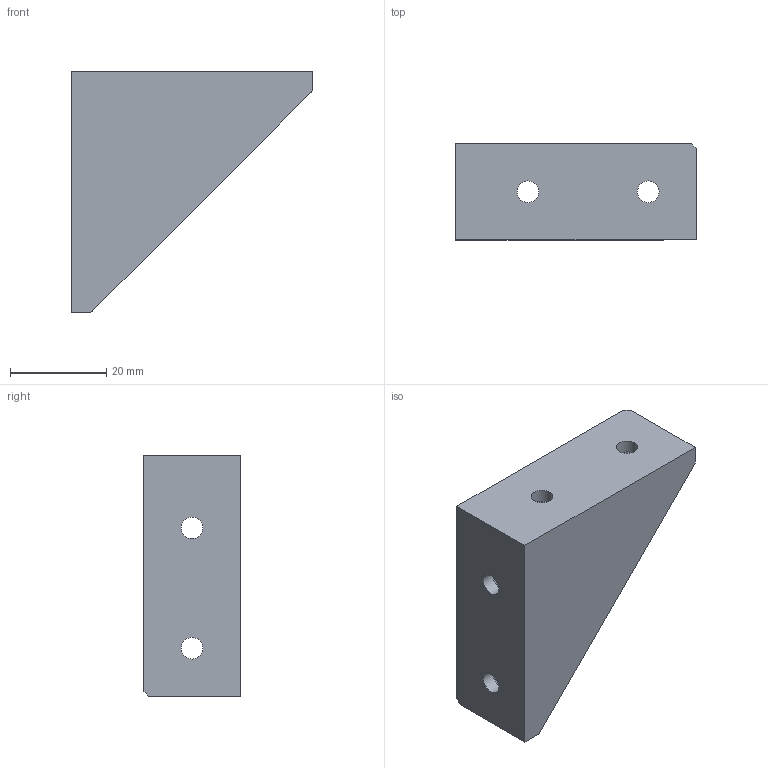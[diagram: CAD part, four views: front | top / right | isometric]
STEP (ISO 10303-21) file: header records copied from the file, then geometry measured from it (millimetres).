
FILE_DESCRIPTION(/* description */ ('STEP AP242 Edition 2','CAx-IF Rec.Pracs.---Representation and Presentation of Product Manufacturing Information (PMI)---4.0---2014-10-13','CAx-IF Rec.Pracs.---3D Tessellated Geometry---0.4---2014-09-14','2;1','CAx-IF Rec.Pracs.---User Defined Attributes---1.5---2016-08-15'),/* implementation_level */ '2;1');
FILE_NAME(/* name */ '20 X 20 Corner Bracket',/* time_stamp */ '2025-11-29T19:52:45Z',/* author */ (''),/* organization */ (''),/* preprocessor_version */ 'ST-DEVELOPER v20',/* originating_system */ 'ONSHAPE BY PTC INC, 1.207',/* authorisation */ ' ');
FILE_SCHEMA (('AP242_MANAGED_MODEL_BASED_3D_ENGINEERING_MIM_LF { 1 0 10303 442 3 1 4 }'));
Length unit declared in the file: metre
Products named in the file (1): Bracket
Bounding box: 50 x 20 x 50 mm (x, y, z)
Volume: 14408.2 mm3; surface area: 7039.8 mm2
Topology: 1 solids, 1 shells, 46 faces, 123 edges, 79 vertices
Faces by surface type: plane 38, cylinder 4, cone 4
Full cylindrical faces by diameter (mm): 4.5 x4
Entity records: 1387 total; most frequent: CARTESIAN_POINT 237, ORIENTED_EDGE 226, DIRECTION 219, EDGE_CURVE 113, LINE 101, VECTOR 101, VERTEX_POINT 77, EDGE_LOOP 62
